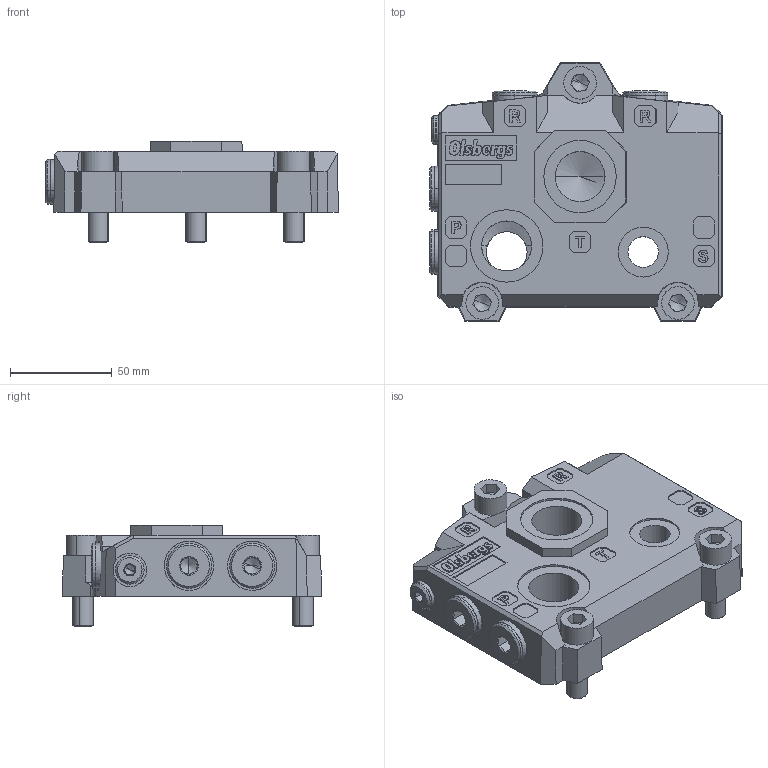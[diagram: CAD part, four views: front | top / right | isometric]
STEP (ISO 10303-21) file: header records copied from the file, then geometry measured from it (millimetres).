
FILE_DESCRIPTION (( 'STEP AP203' ), '1' );
FILE_NAME ('S-V2058.STEP', '2018-05-22T13:59:47', ( '' ), ( '' ), 'SwSTEP 2.0', 'SolidWorks 2018', '' );
FILE_SCHEMA (( 'CONFIG_CONTROL_DESIGN' ));
Length unit declared in the file: millimetre
Products named in the file (1): S-V2058
Bounding box: 143.6 x 127 x 50 mm (x, y, z)
Volume: 396788.6 mm3; surface area: 75209.9 mm2
Topology: 14 solids, 14 shells, 943 faces, 2422 edges, 1537 vertices
Faces by surface type: plane 402, bspline 230, cylinder 156, cone 135, torus 20
Entity records: 35347 total; most frequent: CARTESIAN_POINT 14309, ORIENTED_EDGE 4780, DIRECTION 3540, EDGE_CURVE 2390, VERTEX_POINT 1537, LINE 1192, VECTOR 1192, AXIS2_PLACEMENT_3D 1174
